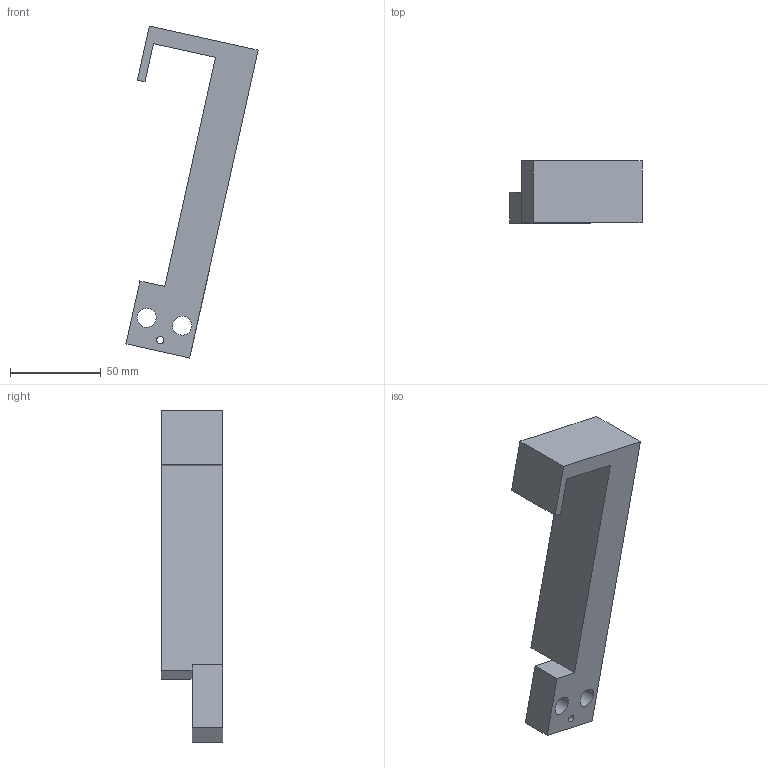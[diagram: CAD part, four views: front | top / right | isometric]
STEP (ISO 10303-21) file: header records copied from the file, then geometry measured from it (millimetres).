
FILE_DESCRIPTION(('Open CASCADE Model'),'2;1');
FILE_NAME('Open CASCADE Shape Model','2026-10-16T05:25:08',('Author'),( 'Open CASCADE'),'Open CASCADE STEP processor 7.9','Open CASCADE 7.9' ,'Unknown');
FILE_SCHEMA(('AUTOMOTIVE_DESIGN { 1 0 10303 214 1 1 1 1 }'));
Length unit declared in the file: millimetre
Products named in the file (1): Open CASCADE STEP translator 7.9 3
Bounding box: 72.76 x 34 x 182.97 mm (x, y, z)
Volume: 137291.9 mm3; surface area: 27228.2 mm2
Topology: 1 solids, 1 shells, 17 faces, 45 edges, 30 vertices
Faces by surface type: plane 14, cylinder 3
Full cylindrical faces by diameter (mm): 4 x1, 10.5 x2
Entity records: 1140 total; most frequent: CARTESIAN_POINT 229, DIRECTION 161, LINE 113, VECTOR 113, ORIENTED_EDGE 90, PCURVE 90, DEFINITIONAL_REPRESENTATION 90, EDGE_CURVE 45
